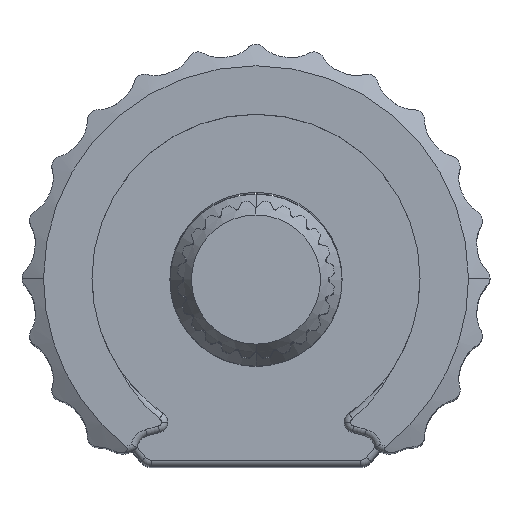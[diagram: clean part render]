
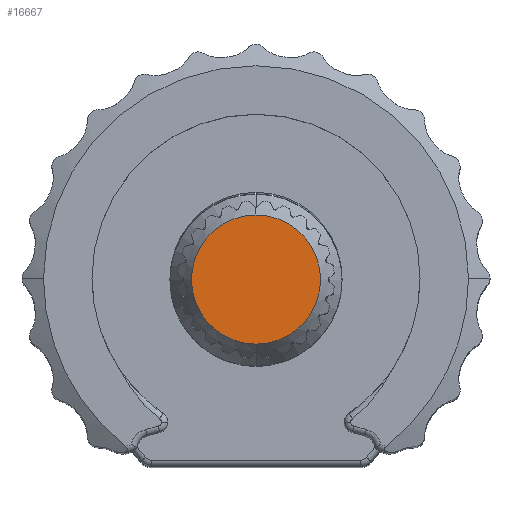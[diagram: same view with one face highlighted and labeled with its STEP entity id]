
A CAD part, top view. The second image highlights one B-rep face of the part: STEP entity #16667.
In plain terms, the highlighted planar face has unit normal (0, 0, 1).
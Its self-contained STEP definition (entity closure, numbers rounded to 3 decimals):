
#691 = CARTESIAN_POINT ( 'NONE',  ( 0., 2.905, 19. ) ) ;
#2803 = ORIENTED_EDGE ( 'NONE', *, *, #13014, .T. ) ;
#3070 = DIRECTION ( 'NONE',  ( 0., -1., 0. ) ) ;
#3222 = AXIS2_PLACEMENT_3D ( 'NONE', #11796, #20636, #18668 ) ;
#4832 = PLANE ( 'NONE',  #10225 ) ;
#6955 = VERTEX_POINT ( 'NONE', #7625 ) ;
#7625 = CARTESIAN_POINT ( 'NONE',  ( 0., -3.095, 19. ) ) ;
#8194 = CIRCLE ( 'NONE', #3222, 3. ) ;
#9075 = VERTEX_POINT ( 'NONE', #691 ) ;
#10025 = CARTESIAN_POINT ( 'NONE',  ( 0., -0.095, 19. ) ) ;
#10225 = AXIS2_PLACEMENT_3D ( 'NONE', #13454, #22327, #13528 ) ;
#11796 = CARTESIAN_POINT ( 'NONE',  ( 0., -0.095, 19. ) ) ;
#13014 = EDGE_CURVE ( 'NONE', #9075, #6955, #8194, .T. ) ;
#13454 = CARTESIAN_POINT ( 'NONE',  ( 3., -0.095, 19. ) ) ;
#13483 = CIRCLE ( 'NONE', #15263, 3. ) ;
#13528 = DIRECTION ( 'NONE',  ( 0., 1., 0. ) ) ;
#14341 = ORIENTED_EDGE ( 'NONE', *, *, #19977, .T. ) ;
#14976 = FACE_OUTER_BOUND ( 'NONE', #16067, .T. ) ;
#15263 = AXIS2_PLACEMENT_3D ( 'NONE', #10025, #15409, #3070 ) ;
#15409 = DIRECTION ( 'NONE',  ( 0., 0., 1. ) ) ;
#16067 = EDGE_LOOP ( 'NONE', ( #2803, #14341 ) ) ;
#16667 = ADVANCED_FACE ( 'NONE', ( #14976 ), #4832, .F. ) ;
#18668 = DIRECTION ( 'NONE',  ( 0., -1., 0. ) ) ;
#19977 = EDGE_CURVE ( 'NONE', #6955, #9075, #13483, .T. ) ;
#20636 = DIRECTION ( 'NONE',  ( 0., 0., 1. ) ) ;
#22327 = DIRECTION ( 'NONE',  ( 0., 0., -1. ) ) ;
